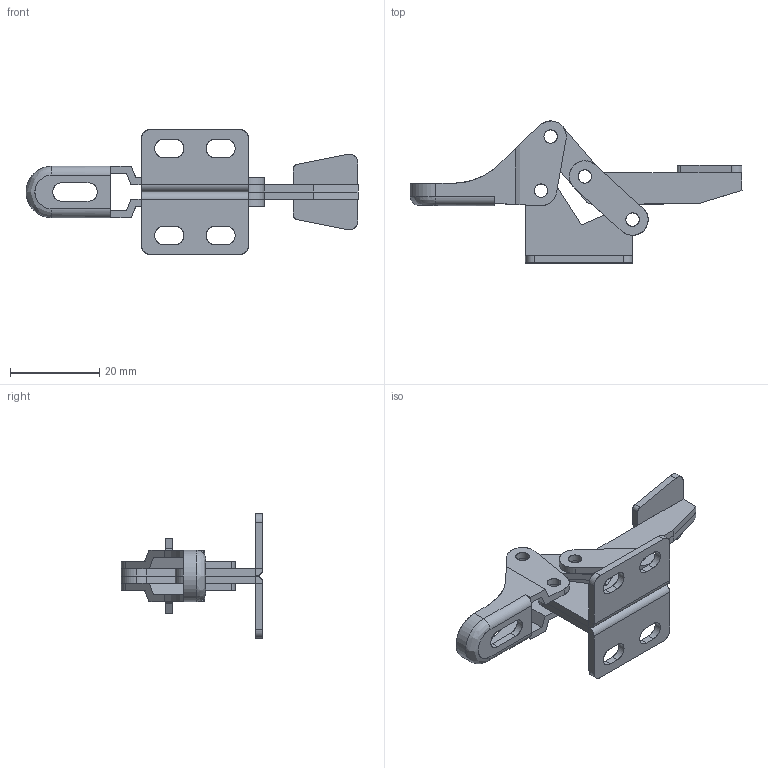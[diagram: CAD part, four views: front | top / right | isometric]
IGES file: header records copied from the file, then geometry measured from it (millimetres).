
Start section: SolidWorks IGES file using analytic representation for surfaces
Global section: file name: D:\GH Files\GH-SW-FILES\GH2\20800\GH-20800.IGS; native system: SolidWorks 2007; preprocessor: SolidWorks 2007; author: Administrator; date: 061019.110129; units: millimetre
Bounding box: 74.4 x 31.81 x 28 mm (x, y, z)
Surface area: 7618.2 mm2 (no closed solid volume)
Topology: 0 solids, 0 shells, 188 faces, 2890 edges, 2890 vertices
Faces by surface type: bspline 99, revolution 89
